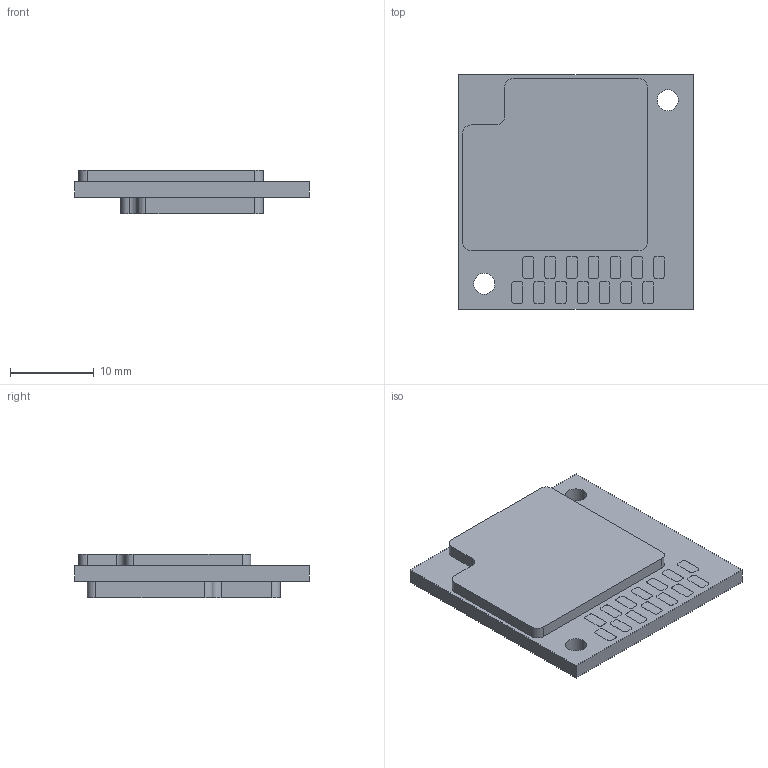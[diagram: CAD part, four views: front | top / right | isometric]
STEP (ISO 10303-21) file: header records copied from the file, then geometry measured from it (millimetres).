
FILE_DESCRIPTION (( 'STEP AP214' ), '1' );
FILE_NAME ('MODM449.STEP', '2024-10-07T09:25:14', ( '' ), ( '' ), 'SwSTEP 2.0', 'SolidWorks 2022', '' );
FILE_SCHEMA (( 'AUTOMOTIVE_DESIGN' ));
Length unit declared in the file: millimetre
Products named in the file (1): MODM449
Bounding box: 28 x 28 x 5.2 mm (x, y, z)
Volume: 2688 mm3; surface area: 2140.9 mm2
Topology: 15 solids, 15 shells, 291 faces, 777 edges, 518 vertices
Faces by surface type: plane 273, cylinder 18
Entity records: 11957 total; most frequent: CARTESIAN_POINT 1587, ORIENTED_EDGE 1554, DIRECTION 1397, EDGE_CURVE 777, VECTOR 741, LINE 741, VERTEX_POINT 518, AXIS2_PLACEMENT_3D 328
